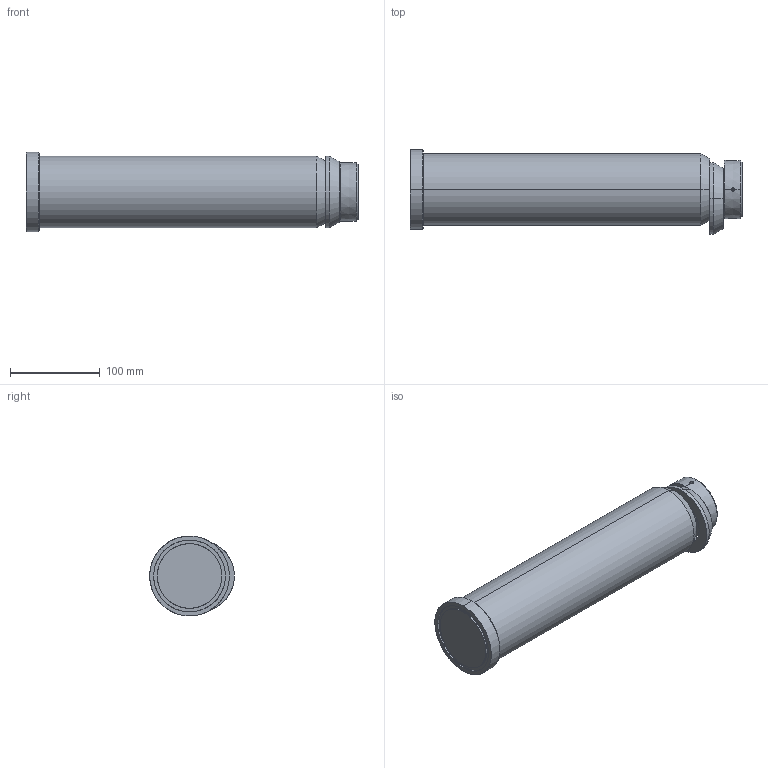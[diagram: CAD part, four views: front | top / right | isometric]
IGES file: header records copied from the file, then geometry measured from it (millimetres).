
Start section: START RECORD GO HERE.
Global section: file name: 395X-080-320.igs; native system: DASSAULT SYSTEMES CATIA V5 R20 - www.3ds.com; preprocessor: CATIA Version 5 Release 20 ; author: Utente; organization: NB04-ASUS; date: 20200410.171045; units: millimetre
Bounding box: 370 x 94.5 x 89 mm (x, y, z)
Surface area: 121606.8 mm2 (no closed solid volume)
Topology: 0 solids, 0 shells, 42 faces, 182 edges, 182 vertices
Faces by surface type: revolution 32, extrusion 10
